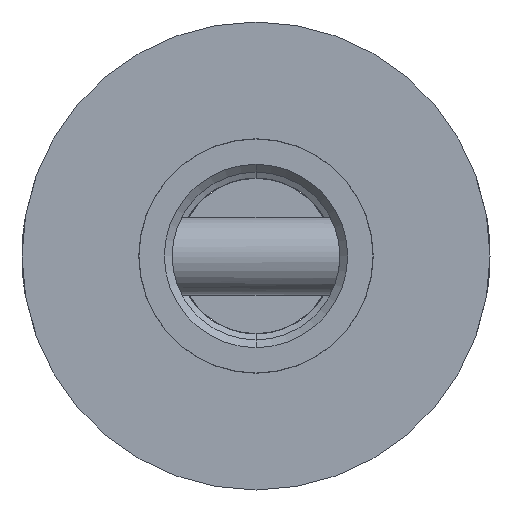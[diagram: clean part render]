
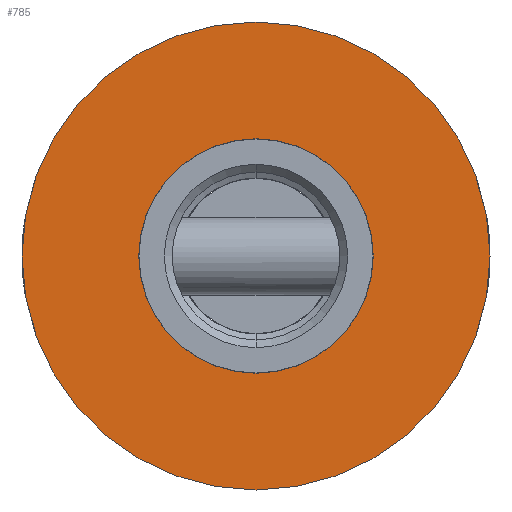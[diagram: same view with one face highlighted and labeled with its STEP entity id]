
A CAD part, front view. The second image highlights one B-rep face of the part: STEP entity #785.
In plain terms, the highlighted planar face has unit normal (0, -1, 0).
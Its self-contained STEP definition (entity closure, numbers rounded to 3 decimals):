
#51 = DIRECTION ( 'NONE',  ( 0., -1., 0. ) ) ;
#65 = CIRCLE ( 'NONE', #96, 6. ) ;
#71 = CIRCLE ( 'NONE', #1787, 3.005 ) ;
#96 = AXIS2_PLACEMENT_3D ( 'NONE', #815, #805, #798 ) ;
#130 = FACE_BOUND ( 'NONE', #1267, .T. ) ;
#173 = FACE_OUTER_BOUND ( 'NONE', #577, .T. ) ;
#229 = AXIS2_PLACEMENT_3D ( 'NONE', #2605, #2591, #2583 ) ;
#437 = CIRCLE ( 'NONE', #2150, 3.005 ) ;
#550 = DIRECTION ( 'NONE',  ( 0., 0., -1. ) ) ;
#577 = EDGE_LOOP ( 'NONE', ( #2228, #2395 ) ) ;
#599 = CARTESIAN_POINT ( 'NONE',  ( 0., -300., 0. ) ) ;
#785 = ADVANCED_FACE ( 'NONE', ( #130, #173 ), #1039, .T. ) ;
#798 = DIRECTION ( 'NONE',  ( 0., 0., -1. ) ) ;
#805 = DIRECTION ( 'NONE',  ( 0., -1., 0. ) ) ;
#815 = CARTESIAN_POINT ( 'NONE',  ( 0., -300., 0. ) ) ;
#1010 = DIRECTION ( 'NONE',  ( 0., 0., -1. ) ) ;
#1016 = DIRECTION ( 'NONE',  ( 0., -1., 0. ) ) ;
#1032 = CIRCLE ( 'NONE', #229, 6. ) ;
#1039 = PLANE ( 'NONE',  #2320 ) ;
#1048 = CARTESIAN_POINT ( 'NONE',  ( 0., -300., 0. ) ) ;
#1142 = CARTESIAN_POINT ( 'NONE',  ( 0., -300., 6. ) ) ;
#1267 = EDGE_LOOP ( 'NONE', ( #2131, #2755 ) ) ;
#1752 = CARTESIAN_POINT ( 'NONE',  ( 0., -300., -3.005 ) ) ;
#1787 = AXIS2_PLACEMENT_3D ( 'NONE', #599, #51, #550 ) ;
#2082 = DIRECTION ( 'NONE',  ( 0., 0., -1. ) ) ;
#2092 = DIRECTION ( 'NONE',  ( 0., -1., 0. ) ) ;
#2119 = VERTEX_POINT ( 'NONE', #1142 ) ;
#2131 = ORIENTED_EDGE ( 'NONE', *, *, #2597, .F. ) ;
#2150 = AXIS2_PLACEMENT_3D ( 'NONE', #2385, #2092, #2082 ) ;
#2185 = VERTEX_POINT ( 'NONE', #1752 ) ;
#2228 = ORIENTED_EDGE ( 'NONE', *, *, #3300, .T. ) ;
#2320 = AXIS2_PLACEMENT_3D ( 'NONE', #1048, #1016, #1010 ) ;
#2385 = CARTESIAN_POINT ( 'NONE',  ( 0., -300., 0. ) ) ;
#2395 = ORIENTED_EDGE ( 'NONE', *, *, #3061, .T. ) ;
#2534 = VERTEX_POINT ( 'NONE', #2805 ) ;
#2540 = VERTEX_POINT ( 'NONE', #2817 ) ;
#2583 = DIRECTION ( 'NONE',  ( 0., 0., -1. ) ) ;
#2591 = DIRECTION ( 'NONE',  ( 0., -1., 0. ) ) ;
#2597 = EDGE_CURVE ( 'NONE', #2185, #2540, #71, .T. ) ;
#2605 = CARTESIAN_POINT ( 'NONE',  ( 0., -300., 0. ) ) ;
#2735 = EDGE_CURVE ( 'NONE', #2540, #2185, #437, .T. ) ;
#2755 = ORIENTED_EDGE ( 'NONE', *, *, #2735, .F. ) ;
#2805 = CARTESIAN_POINT ( 'NONE',  ( 0., -300., -6. ) ) ;
#2817 = CARTESIAN_POINT ( 'NONE',  ( 0., -300., 3.005 ) ) ;
#3061 = EDGE_CURVE ( 'NONE', #2119, #2534, #1032, .T. ) ;
#3300 = EDGE_CURVE ( 'NONE', #2534, #2119, #65, .T. ) ;
